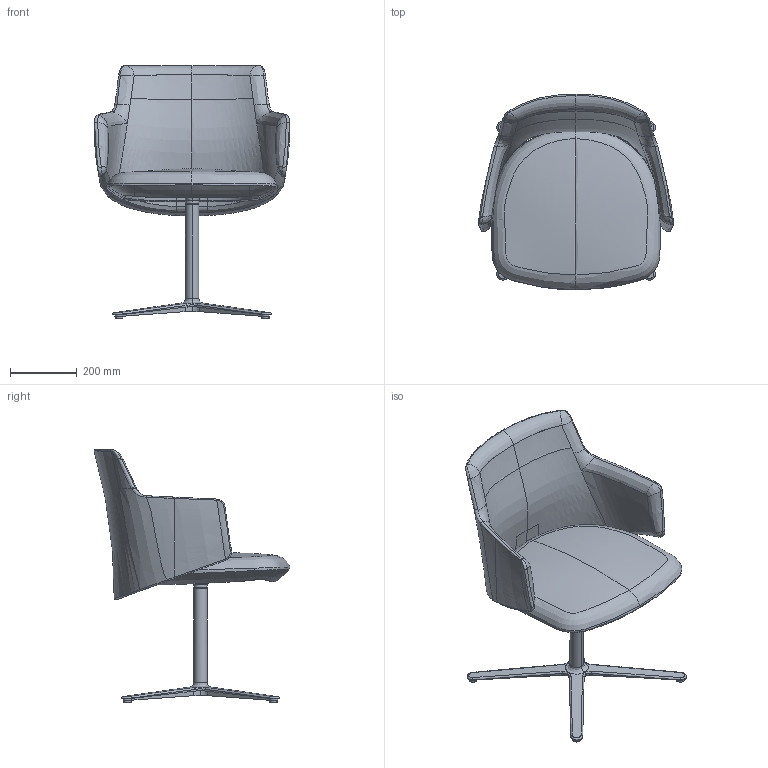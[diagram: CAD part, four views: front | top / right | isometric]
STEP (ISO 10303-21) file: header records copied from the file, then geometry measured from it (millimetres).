
FILE_DESCRIPTION(/* description */ (''),/* implementation_level */ '2;1');
FILE_NAME(/* name */ 'MELODY~1',/* time_stamp */ '2019-06-24T09:35:13+02:00',/* author */ (''),/* organization */ (''),/* preprocessor_version */ 'ST-DEVELOPER v15',/* originating_system */ '',/* authorisation */ '');
FILE_SCHEMA (('AUTOMOTIVE_DESIGN'));
Length unit declared in the file: millimetre
Products named in the file (1): Document
Bounding box: 583.87 x 585.29 x 756.65 mm (x, y, z)
Volume: 937020.1 mm3; surface area: 1586155.7 mm2
Topology: 1 solids, 9 shells, 223 faces, 624 edges, 369 vertices
Faces by surface type: bspline 192, plane 31
Entity records: 57847 total; most frequent: CARTESIAN_POINT 54284, ORIENTED_EDGE 1133, EDGE_CURVE 620, B_SPLINE_CURVE_WITH_KNOTS 448, VERTEX_POINT 369, ADVANCED_FACE 223, FACE_OUTER_BOUND 223, EDGE_LOOP 223
